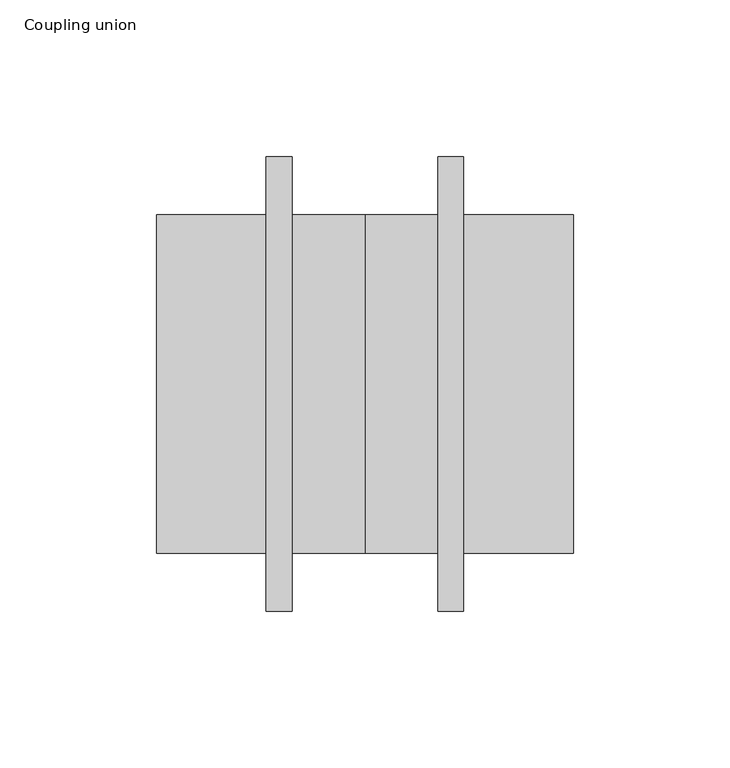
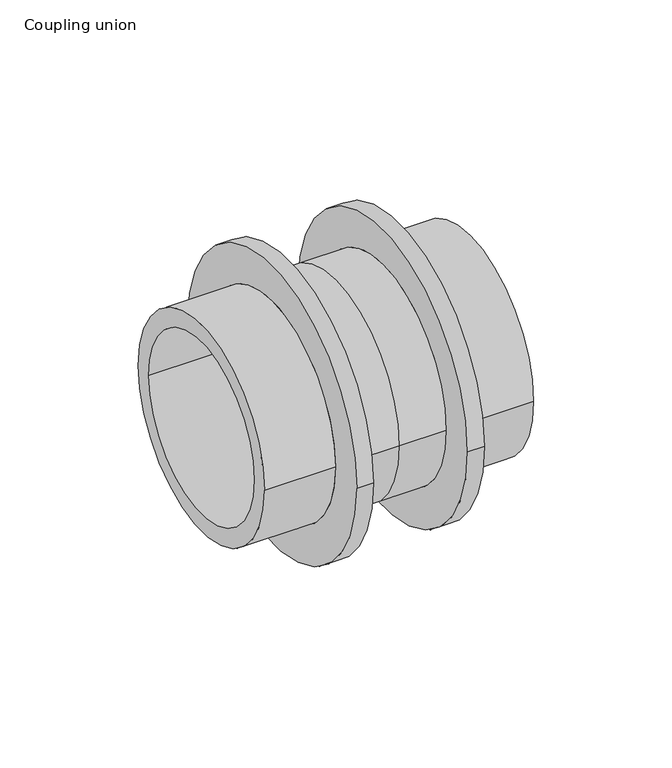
"""IFC4 building model written with IfcOpenShell, lengths in millimetres: pipe fitting geometry, Coupling union : C EQ SDR11 RX."""

from ifc_helpers import new_model, si_unit, frame, origin, place, context, project, spatial, polyline, circle_curve, source, transform, mapped, element, save
from ifc_brep_helpers import plane_surface, cylinder_surface, revolved_surface, advanced_brep


def coupling_union_b98a8659(model_context):
    return source(origin(), model_context, "Body", "AdvancedBrep", [
        advanced_brep(
        [(31.5, 72.5, 0.0), (31.5, -72.5, 0.0), (23.25, -72.5, 0.0), (23.25, 72.5, 0.0), (66.5, 54.0, 0.0), (66.5, -54.0, 0.0), (31.5, -54.0, 0.0), (31.5, 54.0, 0.0), (-66.5, 45.0, 0.0), (-66.5, -45.0, 0.0), (66.5, -45.0, 0.0), (66.5, 45.0, 0.0), (-31.5, 54.0, 0.0), (-31.5, -54.0, 0.0), (-66.5, -54.0, 0.0), (-66.5, 54.0, 0.0), (-23.25, 72.5, 0.0), (-23.25, -72.5, 0.0), (-31.5, -72.5, 0.0), (-31.5, 72.5, 0.0), (0.0, 54.0, 0.0), (0.0, -54.0, 0.0), (-23.25, -54.0, 0.0), (-23.25, 54.0, 0.0), (23.25, 54.0, 0.0), (23.25, -54.0, 0.0)],
        [
            (0, 1, circle_curve(frame((31.5, 0.0, 0.0), z_axis=(-1.0, 0.0, 0.0), x_axis=(0.0, -1.0, 0.0)), 72.5)),
            (1, 2),
            (2, 3, circle_curve(frame((23.25, 0.0, 0.0), z_axis=(1.0, 0.0, 0.0), x_axis=(0.0, -1.0, 0.0)), 72.5)),
            (3, 0),
            (4, 5, circle_curve(frame((66.5, 0.0, 0.0), z_axis=(-1.0, 0.0, 0.0), x_axis=(0.0, -1.0, 0.0)), 54.0)),
            (5, 6),
            (6, 7, circle_curve(frame((31.5, 0.0, 0.0), z_axis=(1.0, 0.0, 0.0), x_axis=(0.0, -1.0, 0.0)), 54.0)),
            (7, 4),
            (8, 9, circle_curve(frame((-66.5, 0.0, 0.0), z_axis=(-1.0, 0.0, 0.0), x_axis=(0.0, -1.0, 0.0)), 45.0)),
            (9, 10),
            (10, 11, circle_curve(frame((66.5, 0.0, 0.0), z_axis=(1.0, 0.0, 0.0), x_axis=(0.0, -1.0, 0.0)), 45.0)),
            (11, 8),
            (12, 13, circle_curve(frame((-31.5, 0.0, 0.0), z_axis=(-1.0, 0.0, 0.0), x_axis=(0.0, -1.0, 0.0)), 54.0)),
            (13, 14),
            (14, 15, circle_curve(frame((-66.5, 0.0, 0.0), z_axis=(1.0, 0.0, 0.0), x_axis=(0.0, -1.0, 0.0)), 54.0)),
            (15, 12),
            (16, 17, circle_curve(frame((-23.25, 0.0, 0.0), z_axis=(-1.0, 0.0, 0.0), x_axis=(0.0, -1.0, 0.0)), 72.5)),
            (17, 18),
            (18, 19, circle_curve(frame((-31.5, 0.0, 0.0), z_axis=(1.0, 0.0, 0.0), x_axis=(0.0, -1.0, 0.0)), 72.5)),
            (19, 16),
            (20, 21, circle_curve(frame((0.0, 0.0, 0.0), z_axis=(-1.0, 0.0, 0.0), x_axis=(0.0, -1.0, 0.0)), 54.0)),
            (21, 22),
            (22, 23, circle_curve(frame((-23.25, 0.0, 0.0), z_axis=(1.0, 0.0, 0.0), x_axis=(0.0, -1.0, 0.0)), 54.0)),
            (23, 20),
            (24, 25, circle_curve(frame((23.25, 0.0, 0.0), z_axis=(-1.0, 0.0, 0.0), x_axis=(0.0, -1.0, 0.0)), 54.0)),
            (25, 21),
            (20, 24),
            (1, 0, circle_curve(frame((31.5, 0.0, 0.0), z_axis=(-1.0, 0.0, 0.0), x_axis=(0.0, 1.0, 0.0)), 72.5)),
            (3, 2, circle_curve(frame((23.25, 0.0, 0.0), z_axis=(1.0, 0.0, 0.0), x_axis=(0.0, 1.0, 0.0)), 72.5)),
            (6, 7, circle_curve(frame((31.5, 0.0, 0.0), z_axis=(-1.0, 0.0, 0.0), x_axis=(0.0, 1.0, 0.0)), 54.0)),
            (5, 4, circle_curve(frame((66.5, 0.0, 0.0), z_axis=(-1.0, 0.0, 0.0), x_axis=(0.0, 1.0, 0.0)), 54.0)),
            (10, 11, circle_curve(frame((66.5, 0.0, 0.0), z_axis=(-1.0, 0.0, 0.0), x_axis=(0.0, 1.0, 0.0)), 45.0)),
            (9, 8, circle_curve(frame((-66.5, 0.0, 0.0), z_axis=(-1.0, 0.0, 0.0), x_axis=(0.0, 1.0, 0.0)), 45.0)),
            (14, 15, circle_curve(frame((-66.5, 0.0, 0.0), z_axis=(-1.0, 0.0, 0.0), x_axis=(0.0, 1.0, 0.0)), 54.0)),
            (13, 12, circle_curve(frame((-31.5, 0.0, 0.0), z_axis=(-1.0, 0.0, 0.0), x_axis=(0.0, 1.0, 0.0)), 54.0)),
            (18, 19, circle_curve(frame((-31.5, 0.0, 0.0), z_axis=(-1.0, 0.0, 0.0), x_axis=(0.0, 1.0, 0.0)), 72.5)),
            (17, 16, circle_curve(frame((-23.25, 0.0, 0.0), z_axis=(-1.0, 0.0, 0.0), x_axis=(0.0, 1.0, 0.0)), 72.5)),
            (22, 23, circle_curve(frame((-23.25, 0.0, 0.0), z_axis=(-1.0, 0.0, 0.0), x_axis=(0.0, 1.0, 0.0)), 54.0)),
            (21, 20, circle_curve(frame((0.0, 0.0, 0.0), z_axis=(-1.0, 0.0, 0.0), x_axis=(0.0, 1.0, 0.0)), 54.0)),
            (25, 24, circle_curve(frame((23.25, 0.0, 0.0), z_axis=(-1.0, 0.0, 0.0), x_axis=(0.0, 1.0, 0.0)), 54.0)),
        ],
        [
            cylinder_surface(frame((0.0, 0.0, 0.0), z_axis=(1.0, 0.0, 0.0), x_axis=(0.0, -1.0, 0.0)), 72.5),
            cylinder_surface(frame((0.0, 0.0, 0.0), z_axis=(1.0, 0.0, 0.0), x_axis=(0.0, -1.0, 0.0)), 54.0),
            revolved_surface(polyline([(66.5, -45.0, 0.0), (-66.5, -45.0, 0.0)]), (0.0, 0.0, 0.0), (1.0, 0.0, 0.0)),
            cylinder_surface(frame((0.0, 0.0, 0.0), z_axis=(1.0, 0.0, 0.0), x_axis=(0.0, 1.0, 0.0)), 72.5),
            plane_surface(frame((31.5, 0.0, 0.0), z_axis=(1.0, 0.0, 0.0), x_axis=(0.0, 1.0, 0.0))),
            cylinder_surface(frame((0.0, 0.0, 0.0), z_axis=(1.0, 0.0, 0.0), x_axis=(0.0, 1.0, 0.0)), 54.0),
            plane_surface(frame((66.5, 0.0, 0.0), z_axis=(1.0, 0.0, 0.0), x_axis=(0.0, 1.0, 0.0))),
            revolved_surface(polyline([(66.5, 45.0, 0.0), (-66.5, 45.0, 0.0)]), (0.0, 0.0, 0.0), (1.0, 0.0, 0.0)),
            plane_surface(frame((-66.5, 0.0, 0.0), z_axis=(-1.0, 0.0, 0.0), x_axis=(0.0, 1.0, 0.0))),
            plane_surface(frame((-31.5, 0.0, 0.0), z_axis=(-1.0, 0.0, 0.0), x_axis=(0.0, 1.0, 0.0))),
            plane_surface(frame((-23.25, 0.0, 0.0), z_axis=(1.0, 0.0, 0.0), x_axis=(0.0, 1.0, 0.0))),
            plane_surface(frame((23.25, 0.0, 0.0), z_axis=(-1.0, 0.0, 0.0), x_axis=(0.0, 1.0, 0.0))),
        ],
        [
            (0, [[1, 2, 3, 4]]),
            (1, [[5, 6, 7, 8]]),
            (2, [[9, 10, 11, 12]]),
            (1, [[13, 14, 15, 16]]),
            (0, [[17, 18, 19, 20]]),
            (1, [[21, 22, 23, 24]]),
            (1, [[25, 26, -21, 27]]),
            (3, [[28, -4, 29, -2]]),
            (4, [[-28, -1], [30, -7]]),
            (5, [[31, -8, -30, -6]]),
            (6, [[-31, -5], [32, -11]]),
            (7, [[33, -12, -32, -10]]),
            (8, [[34, -15], [-33, -9]]),
            (5, [[35, -16, -34, -14]]),
            (9, [[36, -19], [-35, -13]]),
            (3, [[37, -20, -36, -18]]),
            (10, [[-37, -17], [38, -23]]),
            (5, [[39, -24, -38, -22]]),
            (5, [[40, -27, -39, -26]]),
            (11, [[-29, -3], [-40, -25]]),
        ],
    ),
    ])


if __name__ == "__main__":
    model = new_model("IFC4")
    model_context = context("Model", 3, world=origin())
    ifc_project = project(units=[si_unit("LENGTHUNIT", "METRE", prefix="MILLI")], contexts=[model_context])
    site = spatial("IfcSite", under=ifc_project)
    building = spatial("IfcBuilding", under=site)
    placement = place(None, origin())
    coupling_union_shape = coupling_union_b98a8659(model_context)
    element("IfcPipeFitting", 1, ObjectType="Coupling union : C EQ SDR11 RX", at=placement, inside=building, context=model_context, shape_type="MappedRepresentation", body=[
        mapped(coupling_union_shape, transform((0.0, 0.0, 0.0), x_axis=(1.0, 0.0, 0.0), y_axis=(0.0, 1.0, 0.0), z_axis=(0.0, 0.0, 1.0))),
    ])
    save(model, "model.ifc")
